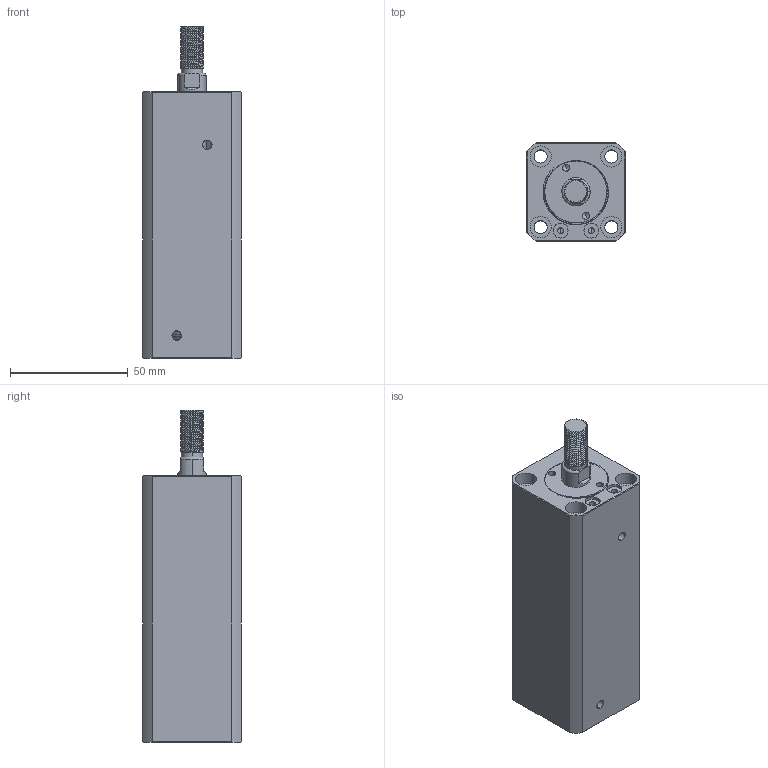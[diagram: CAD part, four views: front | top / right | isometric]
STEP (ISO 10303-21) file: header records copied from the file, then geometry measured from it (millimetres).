
FILE_DESCRIPTION (( 'STEP AP214' ), '1' );
FILE_NAME ('chtb-sdma20x70w_asm.STEP', '2018-05-18T04:42:55', ( 'Windows' ), ( 'Microsoft' ), 'SwSTEP 2.0', 'SolidWorks 2015', '' );
FILE_SCHEMA (( 'AUTOMOTIVE_DESIGN' ));
Length unit declared in the file: millimetre
Products named in the file (4): CHTB-SDMA20X70NBT; chtb-sdma20x70w_asm; QG_3; CHTB-SDMA20X70WHSG
Assembly tree (3 placements, depth 2):
  chtb-sdma20x70w_asm
    CHTB-SDMA20X70NBT
    CHTB-SDMA20X70WHSG
    QG_3
Bounding box: 42 x 42 x 141 mm (x, y, z)
Volume: 169037.2 mm3; surface area: 48780.6 mm2
Topology: 3 solids, 3 shells, 247 faces, 671 edges, 446 vertices
Faces by surface type: cylinder 144, plane 48, torus 25, bspline 23, cone 7
Entity records: 14895 total; most frequent: CARTESIAN_POINT 9018, ORIENTED_EDGE 1334, DIRECTION 1075, EDGE_CURVE 667, VERTEX_POINT 446, AXIS2_PLACEMENT_3D 441, EDGE_LOOP 285, FACE_OUTER_BOUND 247
